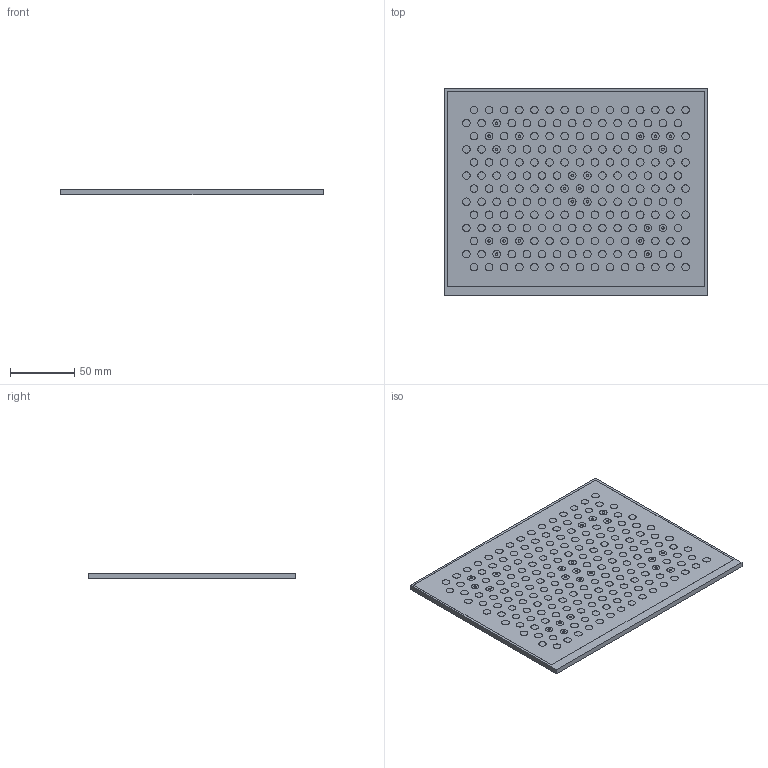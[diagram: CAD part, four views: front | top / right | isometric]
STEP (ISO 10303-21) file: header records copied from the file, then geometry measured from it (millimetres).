
FILE_DESCRIPTION(/* description */ (''),/* implementation_level */ '2;1');
FILE_NAME(/* name */ 'C:\#Vault-WorkDir\Konstruktions-Dokumente\Projekte\VISOR\Katalogzeichnungen\153-13571_ZCP 200-13x15.stp',/* time_stamp */ '2019-03-26T09:05:44+01:00',/* author */ ('SensoPart'),/* organization */ ('SensoPart'),/* preprocessor_version */ 'ST-DEVELOPER v17',/* originating_system */ 'Autodesk Inventor 2018',/* authorisation */ '');
FILE_SCHEMA (('AUTOMOTIVE_DESIGN { 1 0 10303 214 3 1 1 }'));
Length unit declared in the file: millimetre
Products named in the file (1): GH-ENG-0028007
Bounding box: 204 x 161 x 4.05 mm (x, y, z)
Volume: 132632 mm3; surface area: 68829.9 mm2
Topology: 1 solids, 1 shells, 448 faces, 684 edges, 456 vertices
Faces by surface type: plane 228, cylinder 220
Full cylindrical faces by diameter (mm): 1.955 x22, 5.874 x192
Entity records: 10461 total; most frequent: DIRECTION 2022, CARTESIAN_POINT 1589, ORIENTED_EDGE 1368, AXIS2_PLACEMENT_3D 889, EDGE_CURVE 684, EDGE_LOOP 666, VERTEX_POINT 456, FACE_OUTER_BOUND 448
